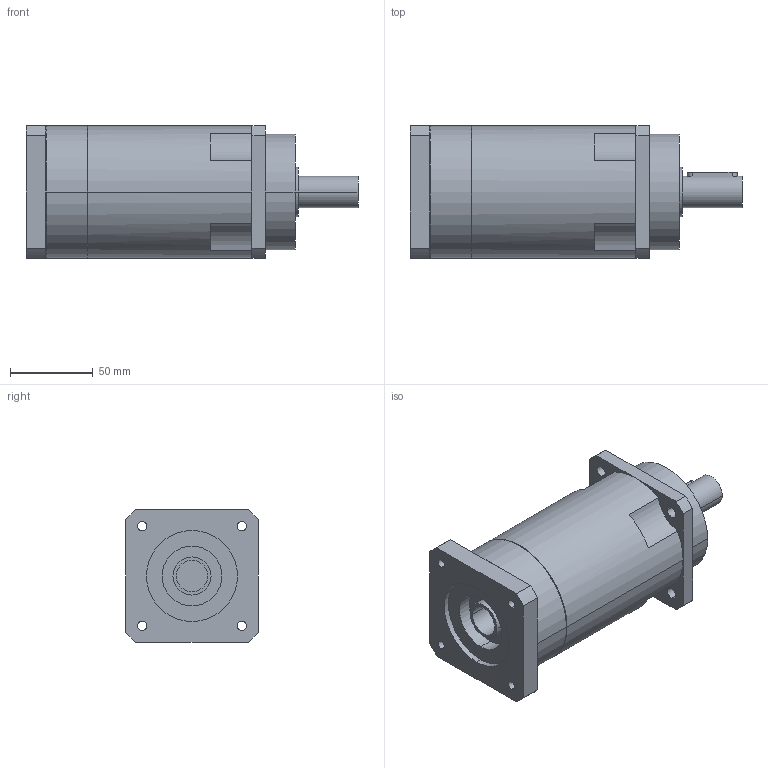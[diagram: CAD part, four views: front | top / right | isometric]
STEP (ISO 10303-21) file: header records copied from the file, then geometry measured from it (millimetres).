
FILE_DESCRIPTION(('CoCreate Modeling STEP Export'),'2;1');
FILE_NAME('GPR100_ig-48-64-80-100-120-144-180-216_19_B5_19_P20.stp','2014-08-26T11:56:23',(''),(''),'CoCreate Modeling STEP processor for AP214 (Solid Model)','CoCreate Modeling 16.00C 25-Feb-2009 (C) Parametric Technology GmbH','');
FILE_SCHEMA(('AUTOMOTIVE_DESIGN { 1 0 10303 214 1 1 1 1 }'));
Length unit declared in the file: millimetre
Products named in the file (2): GPR100_ig-48-64-80-100-120-144-180-216_19_B5_19_P20
Assembly tree (1 placements, depth 2):
  GPR100_ig-48-64-80-100-120-144-180-216_19_B5_19_P20
    GPR100_ig-48-64-80-100-120-144-180-216_19_B5_19_P20
Bounding box: 200.4 x 80 x 80 mm (x, y, z)
Volume: 796677.4 mm3; surface area: 65812.7 mm2
Topology: 1 solids, 1 shells, 102 faces, 284 edges, 192 vertices
Faces by surface type: cylinder 58, plane 38, cone 6
Entity records: 3035 total; most frequent: CARTESIAN_POINT 624, ORIENTED_EDGE 564, DIRECTION 426, EDGE_CURVE 282, VERTEX_POINT 192, AXIS2_PLACEMENT_3D 162, EDGE_LOOP 128, VECTOR 102
